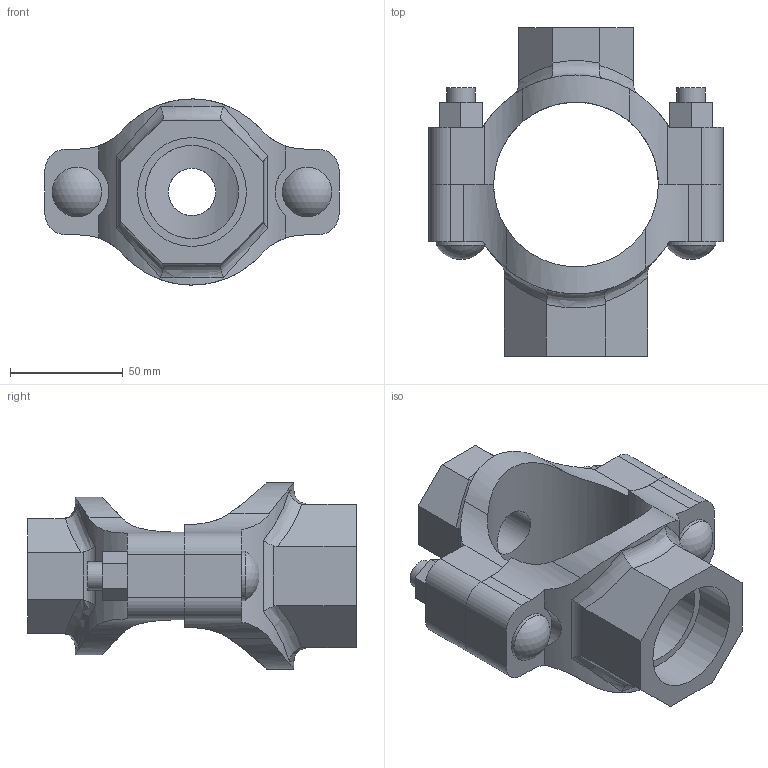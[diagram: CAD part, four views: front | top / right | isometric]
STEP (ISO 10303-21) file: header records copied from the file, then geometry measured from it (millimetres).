
FILE_DESCRIPTION(/* description */ ('VIC MECH-T BRANCH OUTLET CROSS STYLE 920N (THD)','CAx-IF Rec.Pracs.---Representation and Presentation of Product Manufacturing Information (PMI)---4.0---2014-10-13'),/* implementation_level */ '2;1');
FILE_NAME(/* name */ 'C:\Users\Vjadhav\AppData\Roaming\Autodesk\ApplicationPlugins\Back Up\Victaulic_IPS_Mechanical-Cross Outlet_Style 920N (FPT)\Victaulic_IPS_Mechanical-Cross Outlet_02.5x0.75x01.5 (65x20x40).stp',/* time_stamp */ '2020-08-06T18:56:38+05:00',/* author */ ('Vjadhav'),/* organization */ ('Victaulic'),/* preprocessor_version */ 'ST-DEVELOPER v17.2',/* originating_system */ 'Autodesk Inventor 2019',/* authorisation */ '');
FILE_SCHEMA (('AP242_MANAGED_MODEL_BASED_3D_ENGINEERING_MIM_LF { 1 0 10303 442 1 1 4 }'));
Length unit declared in the file: inch
Products named in the file (3): 920NT-02.5x0.75x01.5; 920NT-02.5x0.75; 920NT-02.5x01.5
Assembly tree (2 placements, depth 2):
  920NT-02.5x0.75x01.5
    920NT-02.5x0.75
    920NT-02.5x01.5
Bounding box: 130.56 x 145.8 x 82.55 mm (x, y, z)
Volume: 318357.8 mm3; surface area: 74522.4 mm2
Topology: 2 solids, 2 shells, 132 faces, 350 edges, 236 vertices
Faces by surface type: plane 68, cylinder 50, bspline 8, torus 4, sphere 2
Full cylindrical faces by diameter (mm): 12.7 x4, 20.93 x1, 21.982 x2, 26.67 x1, 41.275 x1, 48.26 x1
Entity records: 5094 total; most frequent: CARTESIAN_POINT 1581, ORIENTED_EDGE 700, DIRECTION 648, EDGE_CURVE 350, VERTEX_POINT 236, AXIS2_PLACEMENT_3D 231, LINE 186, VECTOR 186
